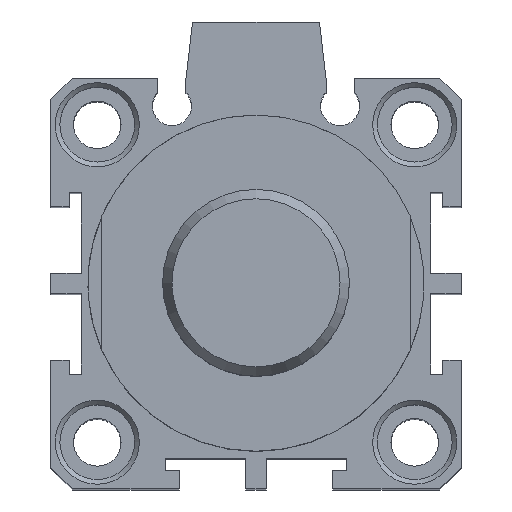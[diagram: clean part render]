
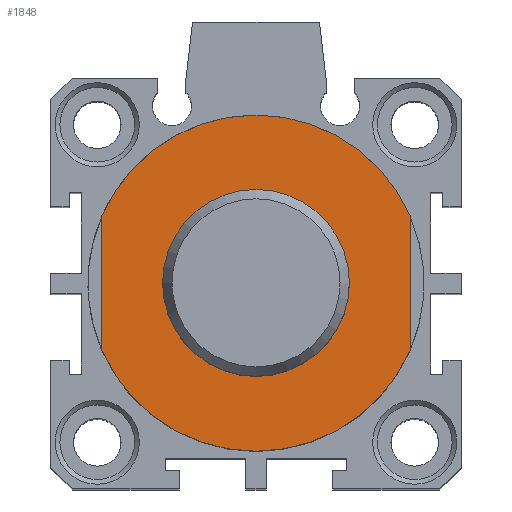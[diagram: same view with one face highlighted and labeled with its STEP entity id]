
A CAD part, top view. The second image highlights one B-rep face of the part: STEP entity #1848.
In plain terms, the highlighted planar face has unit normal (0, 0, 1).
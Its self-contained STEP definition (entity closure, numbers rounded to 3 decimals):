
#1695=CARTESIAN_POINT('',(-3.726,9.88,88.0));
#1696=VERTEX_POINT('',#1695);
#1697=CARTESIAN_POINT('',(-3.726,-0.12,88.0));
#1698=DIRECTION('',(0.0,0.0,-1.0));
#1699=DIRECTION('',(0.0,1.0,0.0));
#1700=AXIS2_PLACEMENT_3D('',#1697,#1698,#1699);
#1701=CIRCLE('',#1700,10.0);
#1702=EDGE_CURVE('',#1696,#1696,#1701,.T.);
#1725=CARTESIAN_POINT('',(12.774,7.074,88.0));
#1726=VERTEX_POINT('',#1725);
#1733=CARTESIAN_POINT('',(12.774,-7.314,88.0));
#1734=VERTEX_POINT('',#1733);
#1735=CARTESIAN_POINT('',(12.774,-7.314,88.0));
#1736=DIRECTION('',(0.0,1.0,0.0));
#1737=VECTOR('',#1736,14.387);
#1738=LINE('',#1735,#1737);
#1739=EDGE_CURVE('',#1734,#1726,#1738,.T.);
#1781=CARTESIAN_POINT('',(-20.226,-7.314,88.0));
#1782=VERTEX_POINT('',#1781);
#1789=CARTESIAN_POINT('',(-20.226,7.074,88.0));
#1790=VERTEX_POINT('',#1789);
#1791=CARTESIAN_POINT('',(-20.226,7.074,88.0));
#1792=DIRECTION('',(0.0,-1.0,0.0));
#1793=VECTOR('',#1792,14.387);
#1794=LINE('',#1791,#1793);
#1795=EDGE_CURVE('',#1790,#1782,#1794,.T.);
#1822=CARTESIAN_POINT('',(-3.726,13.88,88.0));
#1823=DIRECTION('',(0.0,0.0,1.0));
#1824=DIRECTION('',(1.0,0.0,0.0));
#1825=AXIS2_PLACEMENT_3D('',#1822,#1823,#1824);
#1826=PLANE('',#1825);
#1827=ORIENTED_EDGE('',*,*,#1739,.T.);
#1828=CARTESIAN_POINT('',(-3.726,-0.12,88.0));
#1829=DIRECTION('',(0.0,0.0,-1.0));
#1830=DIRECTION('',(0.0,1.0,0.0));
#1831=AXIS2_PLACEMENT_3D('',#1828,#1829,#1830);
#1832=CIRCLE('',#1831,18.0);
#1833=EDGE_CURVE('',#1790,#1726,#1832,.T.);
#1834=ORIENTED_EDGE('',*,*,#1833,.F.);
#1835=ORIENTED_EDGE('',*,*,#1795,.T.);
#1836=CARTESIAN_POINT('',(-3.726,-0.12,88.0));
#1837=DIRECTION('',(0.0,0.0,-1.0));
#1838=DIRECTION('',(0.0,1.0,0.0));
#1839=AXIS2_PLACEMENT_3D('',#1836,#1837,#1838);
#1840=CIRCLE('',#1839,18.0);
#1841=EDGE_CURVE('',#1734,#1782,#1840,.T.);
#1842=ORIENTED_EDGE('',*,*,#1841,.F.);
#1843=EDGE_LOOP('',(#1827,#1834,#1835,#1842));
#1844=FACE_OUTER_BOUND('',#1843,.T.);
#1845=ORIENTED_EDGE('',*,*,#1702,.T.);
#1846=EDGE_LOOP('',(#1845));
#1847=FACE_BOUND('',#1846,.T.);
#1848=ADVANCED_FACE('',(#1844,#1847),#1826,.T.);
